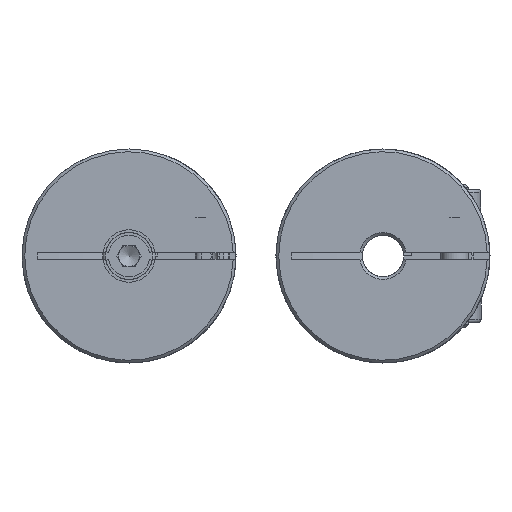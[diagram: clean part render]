
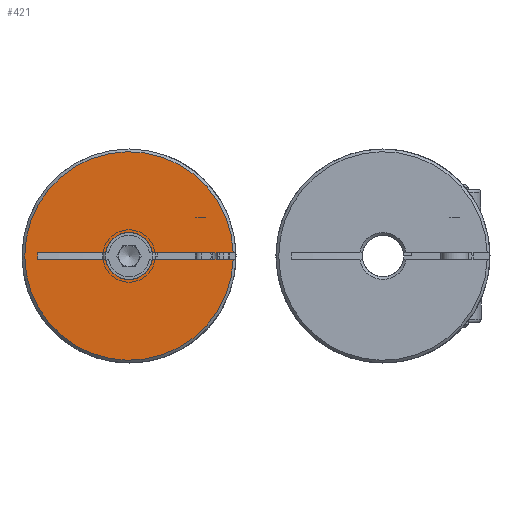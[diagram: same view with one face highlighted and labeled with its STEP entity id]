
A CAD part, left-side view. The second image highlights one B-rep face of the part: STEP entity #421.
In plain terms, the highlighted planar face has unit normal (-1, 0, 0).
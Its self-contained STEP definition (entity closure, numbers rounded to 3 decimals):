
#421 = ADVANCED_FACE( 'NONE', ( #868 ), #869, .F. );
#868 = FACE_OUTER_BOUND( '', #1224, .T. );
#869 = PLANE( '', #1225 );
#1224 = EDGE_LOOP( '', ( #1858, #1859, #1860, #1861, #1862, #1863, #1864, #1865 ) );
#1225 = AXIS2_PLACEMENT_3D( '', #1866, #1867, #1868 );
#1858 = ORIENTED_EDGE( '', *, *, #2121, .T. );
#1859 = ORIENTED_EDGE( '', *, *, #2142, .T. );
#1860 = ORIENTED_EDGE( '', *, *, #2136, .T. );
#1861 = ORIENTED_EDGE( '', *, *, #2141, .T. );
#1862 = ORIENTED_EDGE( '', *, *, #2102, .F. );
#1863 = ORIENTED_EDGE( '', *, *, #2117, .T. );
#1864 = ORIENTED_EDGE( '', *, *, #2132, .F. );
#1865 = ORIENTED_EDGE( '', *, *, #2143, .T. );
#1866 = CARTESIAN_POINT( '', ( 0., 1.5, 0. ) );
#1867 = DIRECTION( '', ( 1., 0., 0. ) );
#1868 = DIRECTION( '', ( 0., 1., 0. ) );
#2102 = EDGE_CURVE( 'NONE', #2390, #2392, #2393, .F. );
#2117 = EDGE_CURVE( 'NONE', #2390, #2417, #2419, .T. );
#2121 = EDGE_CURVE( 'NONE', #2425, #2423, #2426, .T. );
#2132 = EDGE_CURVE( 'NONE', #2444, #2417, #2445, .F. );
#2136 = EDGE_CURVE( 'NONE', #2450, #2451, #2452, .T. );
#2141 = EDGE_CURVE( 'NONE', #2451, #2392, #2457, .F. );
#2142 = EDGE_CURVE( 'NONE', #2423, #2450, #2458, .T. );
#2143 = EDGE_CURVE( 'NONE', #2444, #2425, #2459, .T. );
#2390 = VERTEX_POINT( 'NONE', #2652 );
#2392 = VERTEX_POINT( 'NONE', #2657 );
#2393 = LINE( '', #2658, #2659 );
#2417 = VERTEX_POINT( 'NONE', #2695 );
#2419 = CIRCLE( '', #2700, 1.7 );
#2423 = VERTEX_POINT( 'NONE', #2705 );
#2425 = VERTEX_POINT( 'NONE', #2710 );
#2426 = LINE( '', #2711, #2712 );
#2444 = VERTEX_POINT( 'NONE', #2820 );
#2445 = LINE( '', #2821, #2822 );
#2450 = VERTEX_POINT( 'NONE', #2829 );
#2451 = VERTEX_POINT( 'NONE', #2830 );
#2452 = LINE( '', #2831, #2832 );
#2457 = CIRCLE( '', #2844, 7.55 );
#2458 = CIRCLE( '', #2845, 1.7 );
#2459 = LINE( '', #2846, #2847 );
#2652 = CARTESIAN_POINT( '', ( 0., -1.682, -0.25 ) );
#2657 = CARTESIAN_POINT( '', ( 0., -7.546, -0.25 ) );
#2658 = CARTESIAN_POINT( '', ( 0., -4.5, -0.25 ) );
#2659 = VECTOR( '', #3114, 1000. );
#2695 = CARTESIAN_POINT( '', ( 0., 1.682, -0.25 ) );
#2700 = AXIS2_PLACEMENT_3D( '', #3136, #3137, #3138 );
#2705 = CARTESIAN_POINT( '', ( 0., 1.682, 0.25 ) );
#2710 = CARTESIAN_POINT( '', ( 0., 6.624, 0.25 ) );
#2711 = CARTESIAN_POINT( '', ( 0., 1.5, 0.25 ) );
#2712 = VECTOR( '', #3143, 1000. );
#2820 = CARTESIAN_POINT( '', ( 0., 6.624, -0.25 ) );
#2821 = CARTESIAN_POINT( '', ( 0., -4.5, -0.25 ) );
#2822 = VECTOR( '', #3160, 1000. );
#2829 = CARTESIAN_POINT( '', ( 0., -1.682, 0.25 ) );
#2830 = CARTESIAN_POINT( '', ( 0., -7.546, 0.25 ) );
#2831 = CARTESIAN_POINT( '', ( 0., 1.5, 0.25 ) );
#2832 = VECTOR( '', #3166, 1000. );
#2844 = AXIS2_PLACEMENT_3D( '', #3171, #3172, #3173 );
#2845 = AXIS2_PLACEMENT_3D( '', #3174, #3175, #3176 );
#2846 = CARTESIAN_POINT( '', ( 0., 6.624, -0.25 ) );
#2847 = VECTOR( '', #3177, 1000. );
#3114 = DIRECTION( '', ( 0., 1., 0. ) );
#3136 = CARTESIAN_POINT( '', ( 0., 0., 0. ) );
#3137 = DIRECTION( '', ( 1., 0., 0. ) );
#3138 = DIRECTION( '', ( 0., 0., -1. ) );
#3143 = DIRECTION( '', ( 0., -1., 0. ) );
#3160 = DIRECTION( '', ( 0., 1., 0. ) );
#3166 = DIRECTION( '', ( 0., -1., 0. ) );
#3171 = CARTESIAN_POINT( '', ( 0., 0., 0. ) );
#3172 = DIRECTION( '', ( 1., 0., 0. ) );
#3173 = DIRECTION( '', ( 0., 0., -1. ) );
#3174 = CARTESIAN_POINT( '', ( 0., 0., 0. ) );
#3175 = DIRECTION( '', ( 1., 0., 0. ) );
#3176 = DIRECTION( '', ( 0., 0., -1. ) );
#3177 = DIRECTION( '', ( 0., 0., 1. ) );
